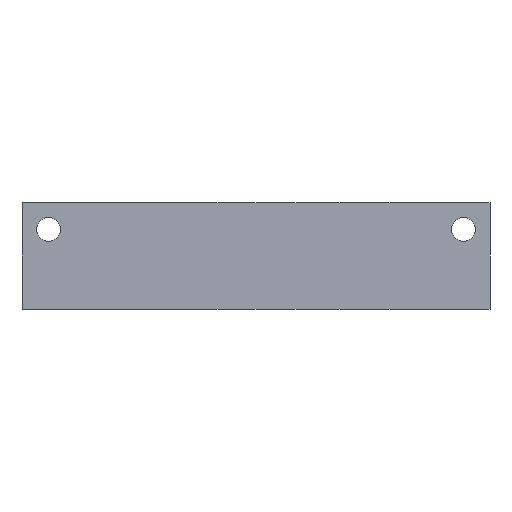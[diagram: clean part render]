
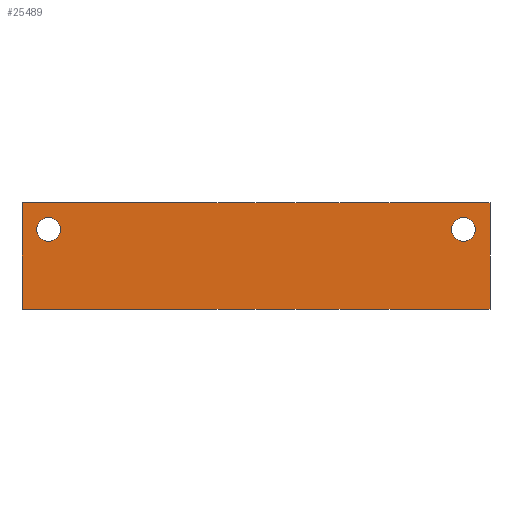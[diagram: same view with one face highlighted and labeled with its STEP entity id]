
A CAD part, front view. The second image highlights one B-rep face of the part: STEP entity #25489.
In plain terms, the highlighted planar face has unit normal (0, -1, 0).
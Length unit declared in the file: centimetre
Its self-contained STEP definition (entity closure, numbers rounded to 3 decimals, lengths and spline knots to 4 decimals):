
#481=CIRCLE('',#52300,0.225);
#602=CIRCLE('',#52803,0.225);
#1985=VERTEX_POINT('',#34883);
#1996=VERTEX_POINT('',#34908);
#1997=VERTEX_POINT('',#34910);
#2902=VERTEX_POINT('',#41902);
#2909=VERTEX_POINT('',#41921);
#2910=VERTEX_POINT('',#41926);
#4534=VECTOR('',#27904,1.);
#5445=VECTOR('',#29516,1.);
#5457=VECTOR('',#29529,1.);
#5458=VECTOR('',#29534,1.);
#7237=LINE('',#34909,#4534);
#8138=LINE('',#41901,#5445);
#8150=LINE('',#41922,#5457);
#8151=LINE('',#41927,#5458);
#10102=EDGE_CURVE('',#1985,#1985,#481,.T.);
#10115=EDGE_CURVE('',#1997,#1996,#7237,.T.);
#11512=EDGE_CURVE('',#1997,#2902,#8138,.T.);
#11524=EDGE_CURVE('',#2909,#1996,#8150,.T.);
#11525=EDGE_CURVE('',#2910,#2910,#602,.T.);
#11526=EDGE_CURVE('',#2902,#2909,#8151,.T.);
#17304=ORIENTED_EDGE('',*,*,#10102,.F.);
#17305=ORIENTED_EDGE('',*,*,#11525,.T.);
#17306=ORIENTED_EDGE('',*,*,#11524,.F.);
#17307=ORIENTED_EDGE('',*,*,#11526,.F.);
#17308=ORIENTED_EDGE('',*,*,#11512,.F.);
#17309=ORIENTED_EDGE('',*,*,#10115,.T.);
#22204=EDGE_LOOP('',(#17304));
#22205=EDGE_LOOP('',(#17305));
#22206=EDGE_LOOP('',(#17306,#17307,#17308,#17309));
#23888=FACE_BOUND('',#22204,.T.);
#23889=FACE_BOUND('',#22205,.T.);
#23890=FACE_BOUND('',#22206,.T.);
#25489=ADVANCED_FACE('',(#23888,#23889,#23890),#26732,.F.);
#26732=PLANE('',#52802);
#27888=DIRECTION('',(0.,-1.,0.));
#27889=DIRECTION('',(-0.225,0.,0.));
#27904=DIRECTION('',(0.,0.,1.));
#29516=DIRECTION('',(-1.,0.,0.));
#29529=DIRECTION('',(1.,0.,0.));
#29531=DIRECTION('',(0.,1.,0.));
#29532=DIRECTION('',(0.,1.,0.));
#29533=DIRECTION('',(0.225,0.,0.));
#29534=DIRECTION('',(0.,0.,1.));
#34882=CARTESIAN_POINT('',(5.5,0.,0.5));
#34883=CARTESIAN_POINT('',(5.725,0.,0.5));
#34908=CARTESIAN_POINT('',(6.,0.,1.));
#34909=CARTESIAN_POINT('',(6.,0.,-1.));
#34910=CARTESIAN_POINT('',(6.,0.,-1.));
#41901=CARTESIAN_POINT('',(-1.,0.,-1.));
#41902=CARTESIAN_POINT('',(-2.8,0.,-1.));
#41921=CARTESIAN_POINT('',(-2.8,0.,1.));
#41922=CARTESIAN_POINT('',(-2.8,0.,1.));
#41924=CARTESIAN_POINT('',(0.5,0.,0.));
#41925=CARTESIAN_POINT('',(-2.3,0.,0.5));
#41926=CARTESIAN_POINT('',(-2.525,0.,0.5));
#41927=CARTESIAN_POINT('',(-2.8,0.,-1.));
#52300=AXIS2_PLACEMENT_3D('',#34882,#27888,#27889);
#52802=AXIS2_PLACEMENT_3D('',#41924,#29531,$);
#52803=AXIS2_PLACEMENT_3D('',#41925,#29532,#29533);
